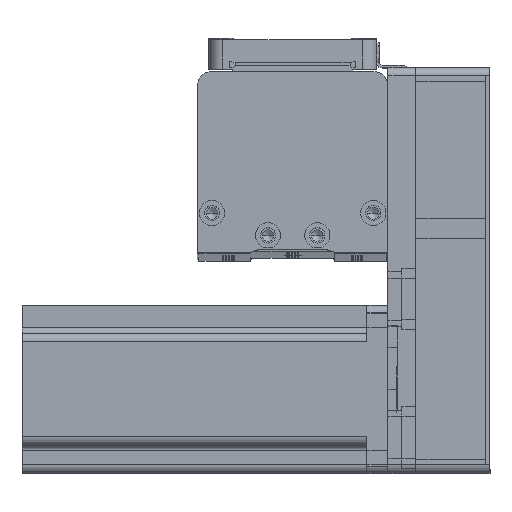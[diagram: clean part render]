
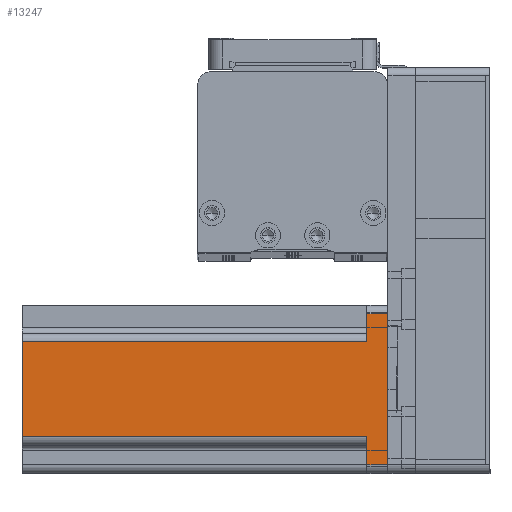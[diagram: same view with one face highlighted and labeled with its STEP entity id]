
A CAD part, top view. The second image highlights one B-rep face of the part: STEP entity #13247.
In plain terms, the highlighted planar face has unit normal (0, 0, 1) as drawn and (0, 1, 0) by its records, which use the part's own axes.
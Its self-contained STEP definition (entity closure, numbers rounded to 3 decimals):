
#1 = VECTOR ( 'NONE', #4036, 1000. ) ;
#338 = CARTESIAN_POINT ( 'NONE',  ( 27., 30., 0. ) ) ;
#482 = ORIENTED_EDGE ( 'NONE', *, *, #31246, .T. ) ;
#2343 = VERTEX_POINT ( 'NONE', #42688 ) ;
#3851 = VERTEX_POINT ( 'NONE', #38113 ) ;
#4036 = DIRECTION ( 'NONE',  ( 0., 0., -1. ) ) ;
#5166 = LINE ( 'NONE', #15430, #36612 ) ;
#6776 = VERTEX_POINT ( 'NONE', #338 ) ;
#6968 = DIRECTION ( 'NONE',  ( 1., 0., 0. ) ) ;
#7292 = EDGE_CURVE ( 'NONE', #48622, #30614, #5166, .T. ) ;
#8257 = EDGE_CURVE ( 'NONE', #2343, #3851, #45878, .T. ) ;
#9610 = VECTOR ( 'NONE', #41827, 1000. ) ;
#10160 = CARTESIAN_POINT ( 'NONE',  ( 30., 30., 130.7 ) ) ;
#12069 = CARTESIAN_POINT ( 'NONE',  ( 27., 30., 7.5 ) ) ;
#13247 = ADVANCED_FACE ( 'NONE', ( #29645 ), #32113, .F. ) ;
#14471 = ORIENTED_EDGE ( 'NONE', *, *, #17193, .T. ) ;
#15430 = CARTESIAN_POINT ( 'NONE',  ( -27., 30., 130.7 ) ) ;
#15757 = CARTESIAN_POINT ( 'NONE',  ( -27., 30., 0. ) ) ;
#15964 = DIRECTION ( 'NONE',  ( 0., -1., 0. ) ) ;
#16157 = ORIENTED_EDGE ( 'NONE', *, *, #8257, .F. ) ;
#17193 = EDGE_CURVE ( 'NONE', #30614, #28098, #47424, .T. ) ;
#17652 = CARTESIAN_POINT ( 'NONE',  ( 20., 30., 7.5 ) ) ;
#18362 = DIRECTION ( 'NONE',  ( -1., 0., 0. ) ) ;
#18573 = EDGE_CURVE ( 'NONE', #28098, #3851, #24384, .T. ) ;
#19309 = ORIENTED_EDGE ( 'NONE', *, *, #7292, .T. ) ;
#21725 = CARTESIAN_POINT ( 'NONE',  ( -17., 30., 130.7 ) ) ;
#22721 = VECTOR ( 'NONE', #18362, 1000. ) ;
#23392 = VERTEX_POINT ( 'NONE', #47575 ) ;
#24384 = LINE ( 'NONE', #21725, #9610 ) ;
#25001 = LINE ( 'NONE', #44567, #45534 ) ;
#25611 = VECTOR ( 'NONE', #6968, 1000. ) ;
#26071 = ORIENTED_EDGE ( 'NONE', *, *, #18573, .T. ) ;
#27345 = AXIS2_PLACEMENT_3D ( 'NONE', #40545, #15964, #44681 ) ;
#27412 = EDGE_CURVE ( 'NONE', #47273, #23392, #41957, .T. ) ;
#27429 = VECTOR ( 'NONE', #38803, 1000. ) ;
#28098 = VERTEX_POINT ( 'NONE', #35940 ) ;
#28562 = CARTESIAN_POINT ( 'NONE',  ( 17., 30., 130.7 ) ) ;
#29645 = FACE_OUTER_BOUND ( 'NONE', #44666, .T. ) ;
#30614 = VERTEX_POINT ( 'NONE', #44959 ) ;
#31246 = EDGE_CURVE ( 'NONE', #47273, #6776, #38359, .T. ) ;
#32113 = PLANE ( 'NONE',  #27345 ) ;
#32722 = LINE ( 'NONE', #28562, #1 ) ;
#34687 = CARTESIAN_POINT ( 'NONE',  ( 27., 30., 130.7 ) ) ;
#35940 = CARTESIAN_POINT ( 'NONE',  ( -17., 30., 7.5 ) ) ;
#36612 = VECTOR ( 'NONE', #44165, 1000. ) ;
#38113 = CARTESIAN_POINT ( 'NONE',  ( -17., 30., 130.7 ) ) ;
#38359 = LINE ( 'NONE', #34687, #27429 ) ;
#38803 = DIRECTION ( 'NONE',  ( 0., 0., -1. ) ) ;
#40368 = EDGE_CURVE ( 'NONE', #6776, #48622, #25001, .T. ) ;
#40545 = CARTESIAN_POINT ( 'NONE',  ( 30., 30., 130.7 ) ) ;
#41827 = DIRECTION ( 'NONE',  ( 0., 0., 1. ) ) ;
#41957 = LINE ( 'NONE', #17652, #51620 ) ;
#42688 = CARTESIAN_POINT ( 'NONE',  ( 17., 30., 130.7 ) ) ;
#43926 = CARTESIAN_POINT ( 'NONE',  ( -20., 30., 7.5 ) ) ;
#44165 = DIRECTION ( 'NONE',  ( 0., 0., 1. ) ) ;
#44567 = CARTESIAN_POINT ( 'NONE',  ( 30., 30., 0. ) ) ;
#44666 = EDGE_LOOP ( 'NONE', ( #14471, #26071, #16157, #52106, #51926, #482, #48316, #19309 ) ) ;
#44681 = DIRECTION ( 'NONE',  ( 1., 0., 0. ) ) ;
#44959 = CARTESIAN_POINT ( 'NONE',  ( -27., 30., 7.5 ) ) ;
#45534 = VECTOR ( 'NONE', #48851, 1000. ) ;
#45878 = LINE ( 'NONE', #10160, #22721 ) ;
#47273 = VERTEX_POINT ( 'NONE', #12069 ) ;
#47424 = LINE ( 'NONE', #43926, #25611 ) ;
#47575 = CARTESIAN_POINT ( 'NONE',  ( 17., 30., 7.5 ) ) ;
#48316 = ORIENTED_EDGE ( 'NONE', *, *, #40368, .T. ) ;
#48622 = VERTEX_POINT ( 'NONE', #15757 ) ;
#48851 = DIRECTION ( 'NONE',  ( -1., 0., 0. ) ) ;
#50541 = DIRECTION ( 'NONE',  ( -1., 0., 0. ) ) ;
#51419 = EDGE_CURVE ( 'NONE', #2343, #23392, #32722, .T. ) ;
#51620 = VECTOR ( 'NONE', #50541, 1000. ) ;
#51926 = ORIENTED_EDGE ( 'NONE', *, *, #27412, .F. ) ;
#52106 = ORIENTED_EDGE ( 'NONE', *, *, #51419, .T. ) ;
